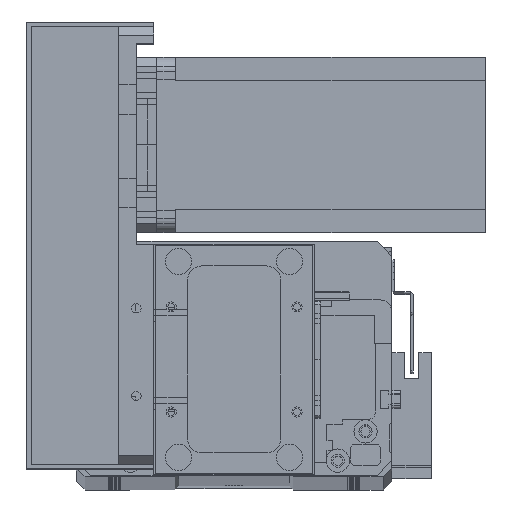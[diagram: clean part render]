
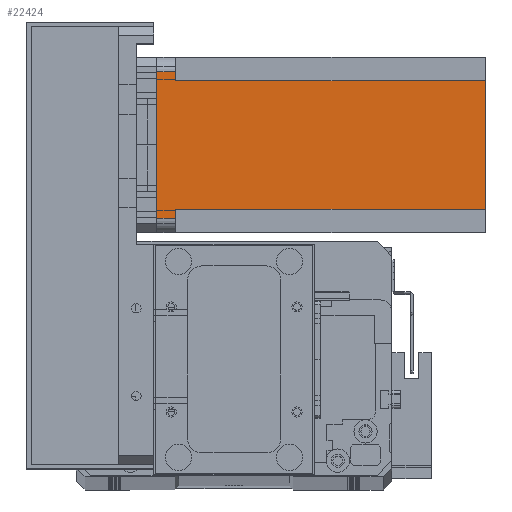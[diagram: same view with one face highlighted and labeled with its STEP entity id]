
A CAD part, top view. The second image highlights one B-rep face of the part: STEP entity #22424.
In plain terms, the highlighted planar face has unit normal (0, 0, 1) as drawn and (0, -1, 0) by its records, which use the part's own axes.
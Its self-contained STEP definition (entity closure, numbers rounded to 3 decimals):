
#563 = DIRECTION ( 'NONE',  ( 1., 0., 0. ) ) ;
#582 = VECTOR ( 'NONE', #563, 1000. ) ;
#1446 = LINE ( 'NONE', #16450, #2297 ) ;
#1507 = EDGE_LOOP ( 'NONE', ( #22419, #21346, #2479, #4088, #27371, #27334, #31167, #7700 ) ) ;
#2008 = EDGE_CURVE ( 'NONE', #13526, #5184, #1446, .T. ) ;
#2297 = VECTOR ( 'NONE', #16615, 1000. ) ;
#2479 = ORIENTED_EDGE ( 'NONE', *, *, #2008, .F. ) ;
#3615 = LINE ( 'NONE', #33601, #9951 ) ;
#4088 = ORIENTED_EDGE ( 'NONE', *, *, #17517, .T. ) ;
#4229 = DIRECTION ( 'NONE',  ( 0., 0., -1. ) ) ;
#5027 = EDGE_CURVE ( 'NONE', #16202, #25852, #9127, .T. ) ;
#5152 = VECTOR ( 'NONE', #30109, 1000. ) ;
#5184 = VERTEX_POINT ( 'NONE', #14701 ) ;
#5333 = LINE ( 'NONE', #16662, #582 ) ;
#6285 = VERTEX_POINT ( 'NONE', #27805 ) ;
#6434 = VERTEX_POINT ( 'NONE', #12396 ) ;
#6933 = VECTOR ( 'NONE', #32539, 1000. ) ;
#7700 = ORIENTED_EDGE ( 'NONE', *, *, #25918, .F. ) ;
#9127 = LINE ( 'NONE', #17719, #23225 ) ;
#9951 = VECTOR ( 'NONE', #15158, 1000. ) ;
#10597 = AXIS2_PLACEMENT_3D ( 'NONE', #20071, #20193, #4229 ) ;
#11507 = CARTESIAN_POINT ( 'NONE',  ( 0., 0., -112.5 ) ) ;
#12223 = LINE ( 'NONE', #16856, #5152 ) ;
#12396 = CARTESIAN_POINT ( 'NONE',  ( 52., 0., -6.5 ) ) ;
#12820 = EDGE_CURVE ( 'NONE', #6285, #31954, #34144, .T. ) ;
#13309 = CARTESIAN_POINT ( 'NONE',  ( 55., 0., -6.5 ) ) ;
#13526 = VERTEX_POINT ( 'NONE', #33173 ) ;
#13574 = CARTESIAN_POINT ( 'NONE',  ( 52., 0., -112.5 ) ) ;
#14626 = EDGE_CURVE ( 'NONE', #6285, #16202, #12223, .T. ) ;
#14701 = CARTESIAN_POINT ( 'NONE',  ( 55., 0., 0. ) ) ;
#15158 = DIRECTION ( 'NONE',  ( 0., 0., -1. ) ) ;
#16138 = LINE ( 'NONE', #13574, #29347 ) ;
#16202 = VERTEX_POINT ( 'NONE', #17315 ) ;
#16450 = CARTESIAN_POINT ( 'NONE',  ( 0., 0., 0. ) ) ;
#16615 = DIRECTION ( 'NONE',  ( 1., 0., 0. ) ) ;
#16662 = CARTESIAN_POINT ( 'NONE',  ( 52., 0., -6.5 ) ) ;
#16856 = CARTESIAN_POINT ( 'NONE',  ( 8., 0., -112.5 ) ) ;
#17315 = CARTESIAN_POINT ( 'NONE',  ( 8., 0., -6.5 ) ) ;
#17517 = EDGE_CURVE ( 'NONE', #13526, #25852, #3615, .T. ) ;
#17529 = PLANE ( 'NONE',  #10597 ) ;
#17719 = CARTESIAN_POINT ( 'NONE',  ( 8., 0., -6.5 ) ) ;
#17758 = DIRECTION ( 'NONE',  ( -1., 0., 0. ) ) ;
#18613 = CARTESIAN_POINT ( 'NONE',  ( 52., 0., -112.5 ) ) ;
#19112 = VECTOR ( 'NONE', #29373, 1000. ) ;
#20071 = CARTESIAN_POINT ( 'NONE',  ( 0., 0., -112.5 ) ) ;
#20193 = DIRECTION ( 'NONE',  ( 0., -1., 0. ) ) ;
#21346 = ORIENTED_EDGE ( 'NONE', *, *, #24602, .T. ) ;
#21577 = DIRECTION ( 'NONE',  ( 0., 0., -1. ) ) ;
#22419 = ORIENTED_EDGE ( 'NONE', *, *, #31633, .T. ) ;
#22424 = ADVANCED_FACE ( 'NONE', ( #29058 ), #17529, .T. ) ;
#23225 = VECTOR ( 'NONE', #17758, 1000. ) ;
#24087 = CARTESIAN_POINT ( 'NONE',  ( 55., 0., -112.5 ) ) ;
#24114 = CARTESIAN_POINT ( 'NONE',  ( 5., 0., -6.5 ) ) ;
#24602 = EDGE_CURVE ( 'NONE', #26483, #5184, #32312, .T. ) ;
#25852 = VERTEX_POINT ( 'NONE', #24114 ) ;
#25918 = EDGE_CURVE ( 'NONE', #6434, #31954, #16138, .T. ) ;
#26483 = VERTEX_POINT ( 'NONE', #13309 ) ;
#27334 = ORIENTED_EDGE ( 'NONE', *, *, #14626, .F. ) ;
#27371 = ORIENTED_EDGE ( 'NONE', *, *, #5027, .F. ) ;
#27805 = CARTESIAN_POINT ( 'NONE',  ( 8., 0., -112.5 ) ) ;
#29058 = FACE_OUTER_BOUND ( 'NONE', #1507, .T. ) ;
#29347 = VECTOR ( 'NONE', #21577, 1000. ) ;
#29373 = DIRECTION ( 'NONE',  ( 0., 0., 1. ) ) ;
#30109 = DIRECTION ( 'NONE',  ( 0., 0., 1. ) ) ;
#31167 = ORIENTED_EDGE ( 'NONE', *, *, #12820, .T. ) ;
#31633 = EDGE_CURVE ( 'NONE', #6434, #26483, #5333, .T. ) ;
#31954 = VERTEX_POINT ( 'NONE', #18613 ) ;
#32312 = LINE ( 'NONE', #24087, #19112 ) ;
#32539 = DIRECTION ( 'NONE',  ( 1., 0., 0. ) ) ;
#33173 = CARTESIAN_POINT ( 'NONE',  ( 5., 0., 0. ) ) ;
#33601 = CARTESIAN_POINT ( 'NONE',  ( 5., 0., -112.5 ) ) ;
#34144 = LINE ( 'NONE', #11507, #6933 ) ;
